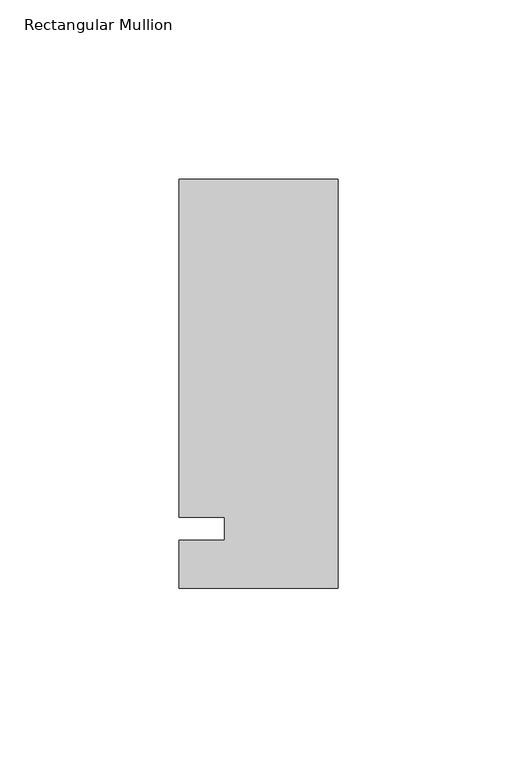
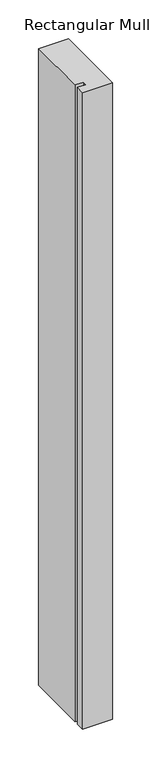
"""IFC4 building model written with IfcOpenShell, lengths in millimetres: member geometry, Rectangular Mullion : Kawneer-TRIFAB_VG_450_BACK_SB_Head."""

from ifc_helpers import new_model, si_unit, frame, origin, place, context, project, spatial, polyline, outline, extrude, source, transform, mapped, element, save


def rectangular_mullion_b15996d5(model_context):
    return source(origin(), model_context, "Body", "SweptSolid", [
        extrude(outline(polyline([(-44.45, -16.66875), (-44.45, -3.175), (-31.7482296, -3.175), (-31.7482296, 3.175), (-44.45, 3.175), (-44.45, 97.63125), (0.0, 97.63125), (0.0, -16.66875), (-44.45, -16.66875)])), frame((0.0, 0.0, -1004.1094133), z_axis=(0.0, 0.0, 1.0), x_axis=(1.0, 0.0, 0.0)), (0.0, 0.0, 1.0), 1004.1094133),
    ])


if __name__ == "__main__":
    model = new_model("IFC4")
    model_context = context("Model", 3, world=origin())
    ifc_project = project(units=[si_unit("LENGTHUNIT", "METRE", prefix="MILLI")], contexts=[model_context])
    site = spatial("IfcSite", under=ifc_project)
    building = spatial("IfcBuilding", under=site)
    placement = place(None, origin())
    rectangular_mullion_shape = rectangular_mullion_b15996d5(model_context)
    element("IfcMember", 1, ObjectType="Rectangular Mullion : Kawneer-TRIFAB_VG_450_BACK_SB_Head", at=placement, inside=building, context=model_context, shape_type="MappedRepresentation", body=[
        mapped(rectangular_mullion_shape, transform((0.0, 0.0, 0.0), x_axis=(1.0, 0.0, 0.0), y_axis=(0.0, 1.0, 0.0), z_axis=(0.0, 0.0, 1.0))),
    ])
    save(model, "model.ifc")
